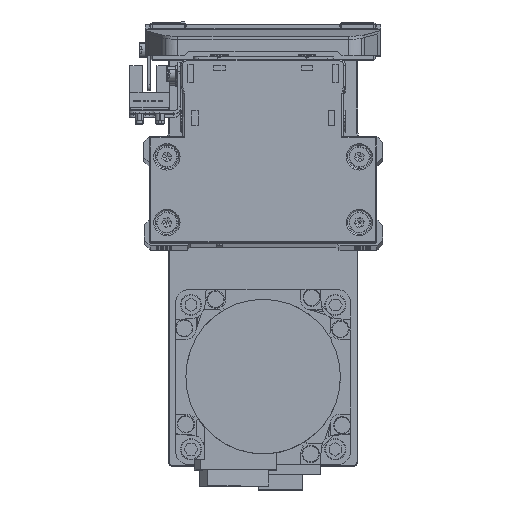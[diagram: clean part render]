
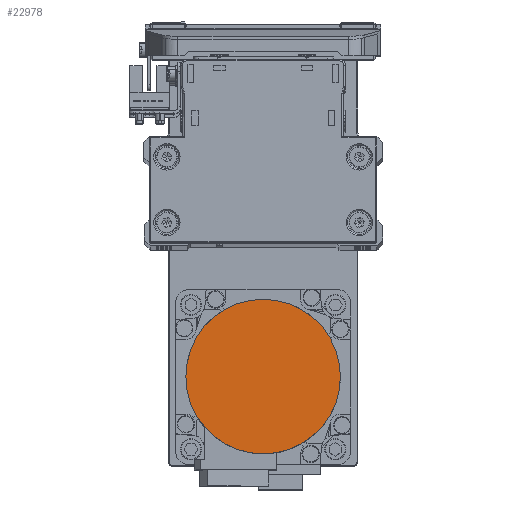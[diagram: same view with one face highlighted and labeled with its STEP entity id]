
A CAD part, top view. The second image highlights one B-rep face of the part: STEP entity #22978.
In plain terms, the highlighted planar face has unit normal (0, 0, 1) as drawn and (0, 0, -1) by its records, which use the part's own axes.
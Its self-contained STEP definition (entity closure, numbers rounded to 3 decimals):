
#2783 = DIRECTION ( 'NONE',  ( -1., 0., 0. ) ) ;
#5772 = CARTESIAN_POINT ( 'NONE',  ( 0., 0., -109.7 ) ) ;
#6032 = CIRCLE ( 'NONE', #29302, 26.5 ) ;
#6760 = DIRECTION ( 'NONE',  ( 1., 0., 0. ) ) ;
#8690 = AXIS2_PLACEMENT_3D ( 'NONE', #22571, #35276, #6760 ) ;
#9860 = PLANE ( 'NONE',  #8690 ) ;
#10318 = ORIENTED_EDGE ( 'NONE', *, *, #27898, .F. ) ;
#14031 = AXIS2_PLACEMENT_3D ( 'NONE', #18594, #31308, #2783 ) ;
#18478 = DIRECTION ( 'NONE',  ( 0., 0., 1. ) ) ;
#18594 = CARTESIAN_POINT ( 'NONE',  ( 0., 0., -109.7 ) ) ;
#22571 = CARTESIAN_POINT ( 'NONE',  ( 0., 0., -109.7 ) ) ;
#22978 = ADVANCED_FACE ( 'NONE', ( #38379 ), #9860, .F. ) ;
#23385 = EDGE_CURVE ( 'NONE', #23989, #37697, #31981, .T. ) ;
#23989 = VERTEX_POINT ( 'NONE', #39553 ) ;
#27898 = EDGE_CURVE ( 'NONE', #37697, #23989, #6032, .T. ) ;
#29302 = AXIS2_PLACEMENT_3D ( 'NONE', #5772, #18478, #31180 ) ;
#29887 = ORIENTED_EDGE ( 'NONE', *, *, #23385, .F. ) ;
#31180 = DIRECTION ( 'NONE',  ( 1., 0., 0. ) ) ;
#31308 = DIRECTION ( 'NONE',  ( 0., 0., 1. ) ) ;
#31981 = CIRCLE ( 'NONE', #14031, 26.5 ) ;
#32526 = EDGE_LOOP ( 'NONE', ( #29887, #10318 ) ) ;
#35276 = DIRECTION ( 'NONE',  ( 0., 0., 1. ) ) ;
#36258 = CARTESIAN_POINT ( 'NONE',  ( 26.5, 0., -109.7 ) ) ;
#37697 = VERTEX_POINT ( 'NONE', #36258 ) ;
#38379 = FACE_OUTER_BOUND ( 'NONE', #32526, .T. ) ;
#39553 = CARTESIAN_POINT ( 'NONE',  ( -26.5, 0., -109.7 ) ) ;
